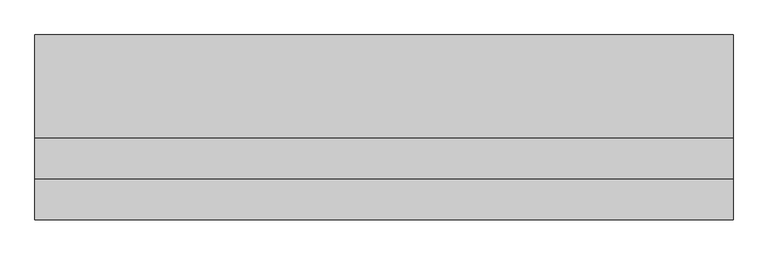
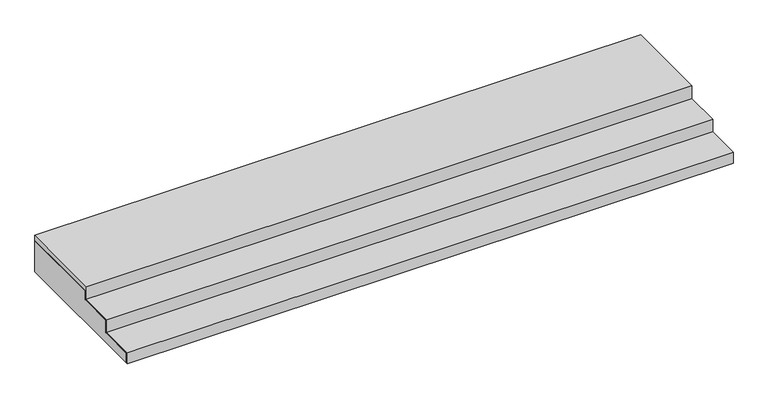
"""IFC4 building model written with IfcOpenShell, lengths in millimetres: proxy geometry, 室外台阶 : 室外台阶."""

from ifc_helpers import new_model, si_unit, frame, origin, place, context, project, spatial, polyline, outline, extrude, source, transform, mapped, element, save


def generic_models_2f0b77b8(model_context):
    return source(origin(), model_context, "Body", "SweptSolid", [
        extrude(outline(polyline([(-1780.0, -430.0), (-1780.0, -320.0), (-1380.0, -320.0), (-1380.0, -170.0), (-980.0, -170.0), (-980.0, -60.0), (0.0, -60.0), (0.0, -430.0), (-1780.0, -430.0)])), frame((0.0, 0.0, 0.0), z_axis=(1.0, 0.0, 0.0), x_axis=(0.0, 1.0, 0.0)), (0.0, 0.0, 1.0), 6800.3045361),
        extrude(outline(polyline([(-1000.0, 0.0), (0.0, 0.0), (0.0, -60.0), (-980.0, -60.0), (-980.0, -170.0), (-1380.0, -170.0), (-1380.0, -320.0), (-1780.0, -320.0), (-1780.0, -430.0), (-1800.0, -430.0), (-1800.0, -300.0), (-1400.0, -300.0), (-1400.0, -150.0), (-1000.0, -150.0), (-1000.0, 0.0)])), frame((0.0, 0.0, 0.0), z_axis=(1.0, 0.0, 0.0), x_axis=(0.0, 1.0, 0.0)), (0.0, 0.0, 1.0), 6800.3045361),
    ])


if __name__ == "__main__":
    model = new_model("IFC4")
    model_context = context("Model", 3, world=origin())
    ifc_project = project(units=[si_unit("LENGTHUNIT", "METRE", prefix="MILLI")], contexts=[model_context])
    site = spatial("IfcSite", under=ifc_project)
    building = spatial("IfcBuilding", under=site)
    placement = place(None, origin())
    generic_models_shape = generic_models_2f0b77b8(model_context)
    element("IfcBuildingElementProxy", 1, Name="室外台阶 : 室外台阶", ObjectType="室外台阶 : 室外台阶", at=placement, inside=building, context=model_context, shape_type="MappedRepresentation", body=[
        mapped(generic_models_shape, transform((0.0, 0.0, 0.0), x_axis=(1.0, 0.0, 0.0), y_axis=(0.0, 1.0, 0.0), z_axis=(0.0, 0.0, 1.0))),
    ])
    save(model, "model.ifc")
